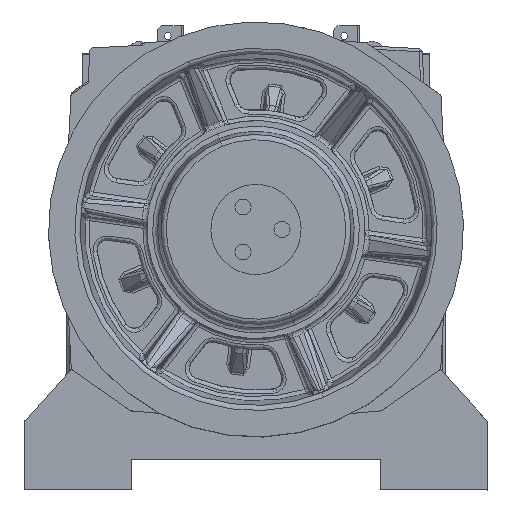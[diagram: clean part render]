
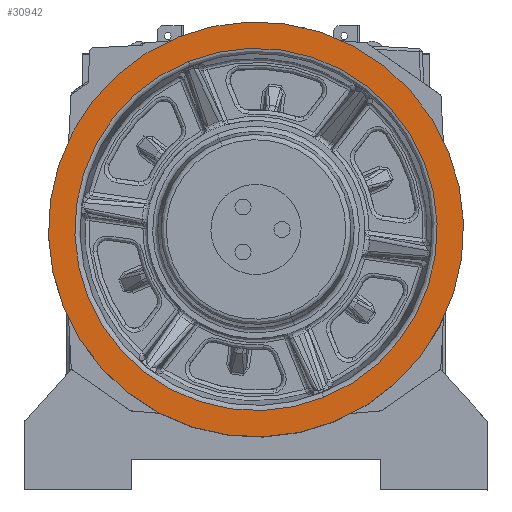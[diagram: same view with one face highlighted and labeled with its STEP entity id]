
A CAD part, top view. The second image highlights one B-rep face of the part: STEP entity #30942.
In plain terms, the highlighted planar face has unit normal (0, 0, 1).
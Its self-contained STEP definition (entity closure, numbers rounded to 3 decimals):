
#6029 = CARTESIAN_POINT ( 'NONE',  ( -141.671, 38.963, 467.77 ) ) ;
#17772 = AXIS2_PLACEMENT_3D ( 'NONE', #6029, #125495, #27795 ) ;
#19061 = DIRECTION ( 'NONE',  ( 0., 0., -1. ) ) ;
#22927 = AXIS2_PLACEMENT_3D ( 'NONE', #62958, #99400, #89278 ) ;
#27795 = DIRECTION ( 'NONE',  ( -0.375, 0.927, 0. ) ) ;
#28722 = VERTEX_POINT ( 'NONE', #121816 ) ;
#29166 = DIRECTION ( 'NONE',  ( 0.375, -0.927, 0. ) ) ;
#29326 = VERTEX_POINT ( 'NONE', #135172 ) ;
#30942 = ADVANCED_FACE ( 'NONE', ( #113988, #31789 ), #76789, .T. ) ;
#31789 = FACE_OUTER_BOUND ( 'NONE', #145786, .T. ) ;
#46260 = ORIENTED_EDGE ( 'NONE', *, *, #80881, .T. ) ;
#55061 = DIRECTION ( 'NONE',  ( 0., 0., 1. ) ) ;
#55770 = CARTESIAN_POINT ( 'NONE',  ( -141.671, 38.963, 467.77 ) ) ;
#62958 = CARTESIAN_POINT ( 'NONE',  ( -141.671, 38.963, 467.77 ) ) ;
#65032 = CIRCLE ( 'NONE', #22927, 200. ) ;
#71635 = CARTESIAN_POINT ( 'NONE',  ( -216.616, 224.391, 467.77 ) ) ;
#76540 = AXIS2_PLACEMENT_3D ( 'NONE', #135407, #19061, #29166 ) ;
#76789 = PLANE ( 'NONE',  #122960 ) ;
#79428 = VERTEX_POINT ( 'NONE', #96287 ) ;
#79857 = CARTESIAN_POINT ( 'NONE',  ( 15.942, 102.666, 467.77 ) ) ;
#80881 = EDGE_CURVE ( 'NONE', #28722, #29326, #111146, .T. ) ;
#84685 = CIRCLE ( 'NONE', #17772, 200. ) ;
#84913 = EDGE_CURVE ( 'NONE', #134152, #79428, #65032, .T. ) ;
#89278 = DIRECTION ( 'NONE',  ( -0.375, 0.927, 0. ) ) ;
#89850 = EDGE_LOOP ( 'NONE', ( #46260, #125521 ) ) ;
#90006 = AXIS2_PLACEMENT_3D ( 'NONE', #55770, #93007, #127141 ) ;
#92049 = ORIENTED_EDGE ( 'NONE', *, *, #84913, .F. ) ;
#92067 = ORIENTED_EDGE ( 'NONE', *, *, #116065, .F. ) ;
#93007 = DIRECTION ( 'NONE',  ( 0., 0., -1. ) ) ;
#96287 = CARTESIAN_POINT ( 'NONE',  ( -66.726, -146.464, 467.77 ) ) ;
#99400 = DIRECTION ( 'NONE',  ( 0., 0., -1. ) ) ;
#111146 = CIRCLE ( 'NONE', #76540, 174.582 ) ;
#113988 = FACE_BOUND ( 'NONE', #89850, .T. ) ;
#116065 = EDGE_CURVE ( 'NONE', #79428, #134152, #84685, .T. ) ;
#121816 = CARTESIAN_POINT ( 'NONE',  ( -76.251, -122.898, 467.77 ) ) ;
#122960 = AXIS2_PLACEMENT_3D ( 'NONE', #79857, #55061, #147366 ) ;
#125495 = DIRECTION ( 'NONE',  ( 0., 0., -1. ) ) ;
#125521 = ORIENTED_EDGE ( 'NONE', *, *, #146536, .T. ) ;
#127141 = DIRECTION ( 'NONE',  ( 0.375, -0.927, 0. ) ) ;
#134152 = VERTEX_POINT ( 'NONE', #71635 ) ;
#135172 = CARTESIAN_POINT ( 'NONE',  ( -207.091, 200.824, 467.77 ) ) ;
#135407 = CARTESIAN_POINT ( 'NONE',  ( -141.671, 38.963, 467.77 ) ) ;
#142073 = CIRCLE ( 'NONE', #90006, 174.582 ) ;
#145786 = EDGE_LOOP ( 'NONE', ( #92049, #92067 ) ) ;
#146536 = EDGE_CURVE ( 'NONE', #29326, #28722, #142073, .T. ) ;
#147366 = DIRECTION ( 'NONE',  ( 0.375, -0.927, 0. ) ) ;
